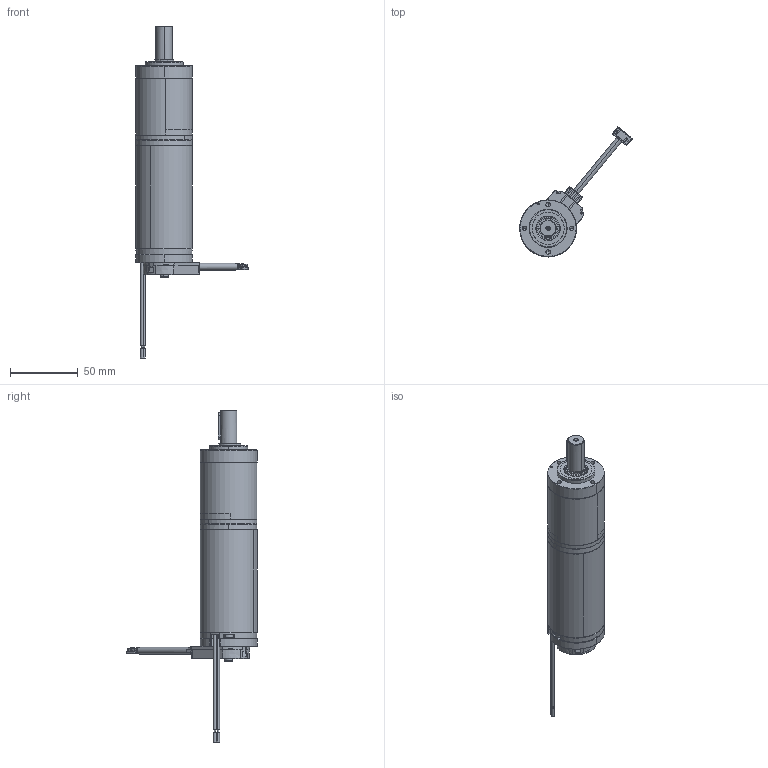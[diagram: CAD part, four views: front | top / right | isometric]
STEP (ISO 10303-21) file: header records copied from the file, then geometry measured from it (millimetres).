
FILE_DESCRIPTION (( 'STEP AP214' ), '1' );
FILE_NAME ('BRx42-40-PGx42 (2 Stage) - Incr Encoder.STEP', '2025-05-13T06:11:10', ( '' ), ( '' ), 'SwSTEP 2.0', 'SolidWorks 2023', '' );
FILE_SCHEMA (( 'AUTOMOTIVE_DESIGN' ));
Length unit declared in the file: millimetre
Products named in the file (1): BRx42-40-PGx42 (2 Stage) - Incr Encoder
Bounding box: 83.29 x 96.21 x 245.65 mm (x, y, z)
Volume: 126361.6 mm3; surface area: 79734.6 mm2
Topology: 40 solids, 42 shells, 3752 faces, 9575 edges, 6087 vertices
Faces by surface type: plane 1931, cylinder 763, cone 525, torus 263, bspline 234, sphere 36
Entity records: 167908 total; most frequent: CARTESIAN_POINT 36279, ORIENTED_EDGE 19086, DIRECTION 18147, EDGE_CURVE 9543, AXIS2_PLACEMENT_3D 6460, VERTEX_POINT 6087, VECTOR 5227, LINE 5227
